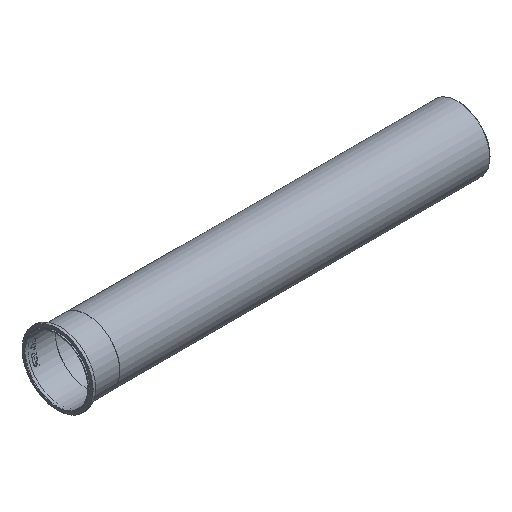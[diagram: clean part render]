
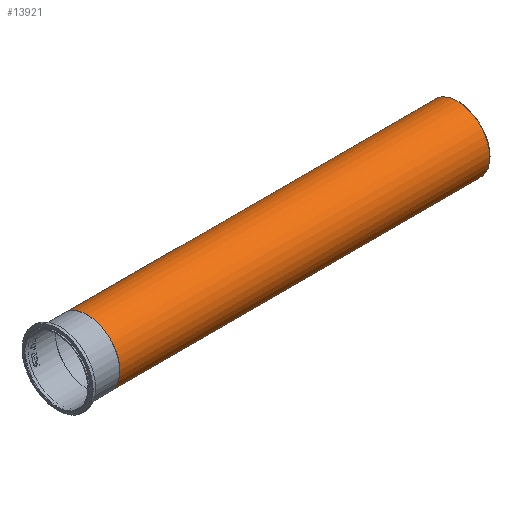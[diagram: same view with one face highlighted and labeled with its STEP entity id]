
A CAD part, isometric view. The second image highlights one B-rep face of the part: STEP entity #13921.
In plain terms, the highlighted cylindrical face has radius 79.883 mm (diameter 159.766 mm), a full revolution.
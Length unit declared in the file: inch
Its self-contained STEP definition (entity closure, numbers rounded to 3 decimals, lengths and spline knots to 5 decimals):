
#13890=CARTESIAN_POINT('',(3.06,3.145,0.0));
#13891=VERTEX_POINT('',#13890);
#13892=CARTESIAN_POINT('',(3.06,0.0,0.0));
#13893=DIRECTION('',(1.0,0.0,0.0));
#13894=DIRECTION('',(0.0,1.0,0.0));
#13895=AXIS2_PLACEMENT_3D('',#13892,#13893,#13894);
#13896=CIRCLE('',#13895,3.145);
#13897=EDGE_CURVE('',#13891,#13891,#13896,.T.);
#13902=CARTESIAN_POINT('',(21.21504,0.0,0.0));
#13903=DIRECTION('',(1.0,0.0,0.0));
#13904=DIRECTION('',(0.0,1.0,0.0));
#13905=AXIS2_PLACEMENT_3D('',#13902,#13903,#13904);
#13906=CYLINDRICAL_SURFACE('',#13905,3.145);
#13907=CARTESIAN_POINT('',(39.37008,3.145,0.0));
#13908=VERTEX_POINT('',#13907);
#13909=CARTESIAN_POINT('',(39.37008,0.0,0.0));
#13910=DIRECTION('',(1.0,0.0,0.0));
#13911=DIRECTION('',(0.0,1.0,0.0));
#13912=AXIS2_PLACEMENT_3D('',#13909,#13910,#13911);
#13913=CIRCLE('',#13912,3.145);
#13914=EDGE_CURVE('',#13908,#13908,#13913,.T.);
#13915=ORIENTED_EDGE('',*,*,#13914,.F.);
#13916=EDGE_LOOP('',(#13915));
#13917=FACE_OUTER_BOUND('',#13916,.T.);
#13918=ORIENTED_EDGE('',*,*,#13897,.T.);
#13919=EDGE_LOOP('',(#13918));
#13920=FACE_BOUND('',#13919,.T.);
#13921=ADVANCED_FACE('',(#13917,#13920),#13906,.T.);
